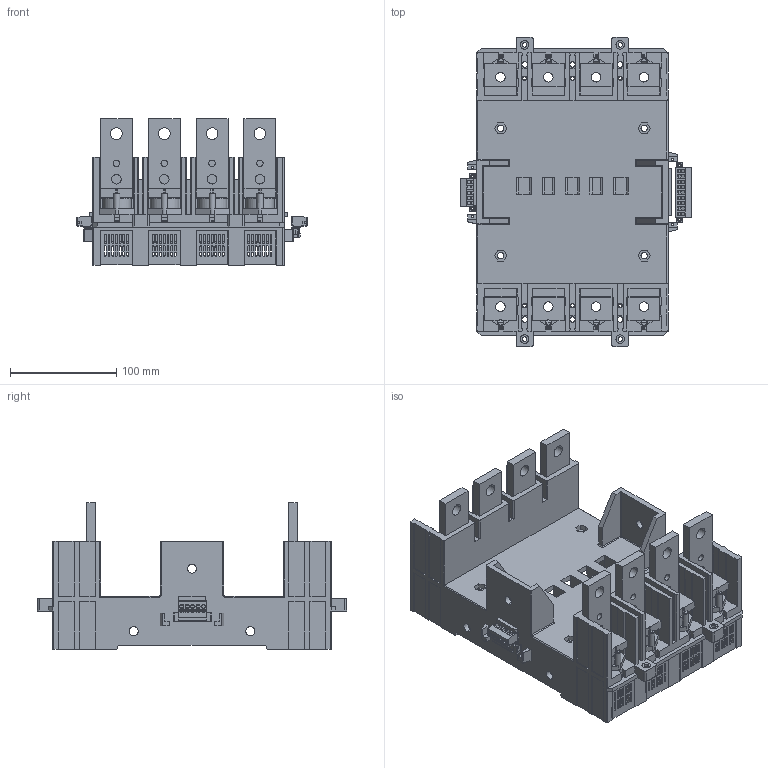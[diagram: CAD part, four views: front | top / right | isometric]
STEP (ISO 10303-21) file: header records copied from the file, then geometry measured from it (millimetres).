
FILE_DESCRIPTION (( 'STEP AP203' ), '1' );
FILE_NAME ('630-4P-P1RH.STEP', '2024-11-05T02:31:32', ( 'A' ), ( '' ), 'SwSTEP 2.0', 'SolidWorks 2018', '' );
FILE_SCHEMA (( 'CONFIG_CONTROL_DESIGN' ));
Length unit declared in the file: millimetre
Products named in the file (1): 630-4P-P1RH
Bounding box: 216.7 x 291 x 138 mm (x, y, z)
Volume: 1090248.5 mm3; surface area: 513146.5 mm2
Topology: 23 solids, 23 shells, 4439 faces, 12366 edges, 8100 vertices
Faces by surface type: plane 2839, cylinder 1440, bspline 72, torus 70, cone 16, sphere 2
Entity records: 149631 total; most frequent: CARTESIAN_POINT 32560, ORIENTED_EDGE 24728, DIRECTION 23940, EDGE_CURVE 12364, VECTOR 9016, LINE 9016, VERTEX_POINT 8100, AXIS2_PLACEMENT_3D 7462
